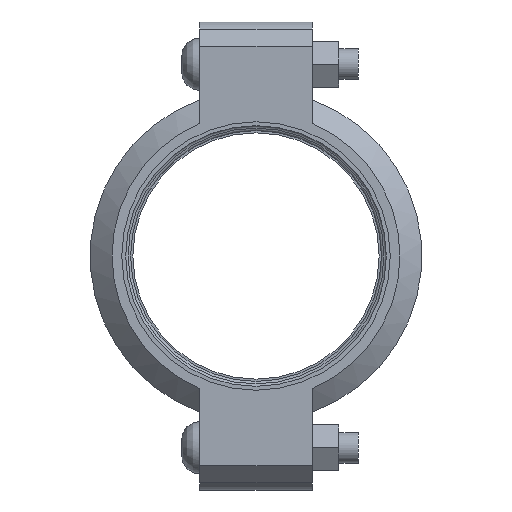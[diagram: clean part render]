
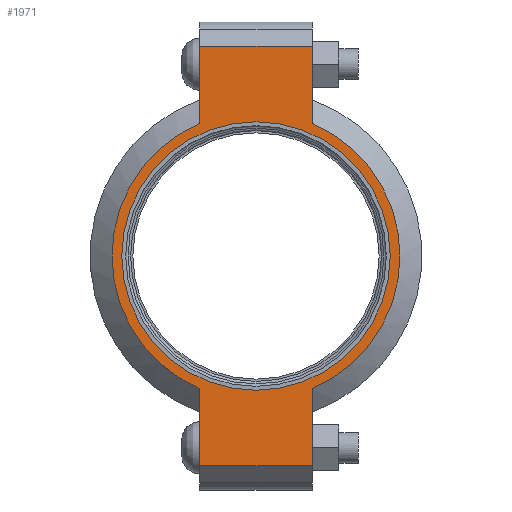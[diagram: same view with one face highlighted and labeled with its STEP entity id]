
A CAD part, left-side view. The second image highlights one B-rep face of the part: STEP entity #1971.
In plain terms, the highlighted planar face has unit normal (-1, 0, 0) as drawn and (0, 0, 1) by its records, which use the part's own axes.
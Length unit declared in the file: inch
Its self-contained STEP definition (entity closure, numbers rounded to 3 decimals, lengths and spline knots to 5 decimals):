
#160=LINE('',#3493,#257);
#168=LINE('',#3529,#265);
#175=LINE('',#3550,#272);
#184=LINE('',#3582,#281);
#185=LINE('',#3586,#282);
#186=LINE('',#3588,#283);
#257=VECTOR('',#2845,0.3937);
#265=VECTOR('',#2861,0.3937);
#272=VECTOR('',#2880,0.3937);
#281=VECTOR('',#2905,0.3937);
#282=VECTOR('',#2910,0.3937);
#283=VECTOR('',#2911,0.3937);
#339=FACE_BOUND('',#589,.T.);
#383=PLANE('',#2310);
#471=FACE_OUTER_BOUND('',#588,.T.);
#588=EDGE_LOOP('',(#1692,#1693,#1694,#1695,#1696,#1697,#1698,#1699));
#589=EDGE_LOOP('',(#1700));
#761=CIRCLE('',#2311,2.95);
#762=CIRCLE('',#2312,2.95);
#763=CIRCLE('',#2313,2.75);
#925=VERTEX_POINT('',#3490);
#926=VERTEX_POINT('',#3492);
#937=VERTEX_POINT('',#3524);
#938=VERTEX_POINT('',#3528);
#945=VERTEX_POINT('',#3547);
#946=VERTEX_POINT('',#3549);
#956=VERTEX_POINT('',#3585);
#957=VERTEX_POINT('',#3587);
#958=VERTEX_POINT('',#3590);
#1170=EDGE_CURVE('',#926,#925,#160,.T.);
#1184=EDGE_CURVE('',#938,#937,#168,.T.);
#1194=EDGE_CURVE('',#946,#945,#175,.T.);
#1209=EDGE_CURVE('',#938,#925,#184,.T.);
#1210=EDGE_CURVE('',#937,#946,#761,.T.);
#1211=EDGE_CURVE('',#956,#945,#185,.T.);
#1212=EDGE_CURVE('',#956,#957,#186,.T.);
#1213=EDGE_CURVE('',#957,#926,#762,.T.);
#1214=EDGE_CURVE('',#958,#958,#763,.T.);
#1692=ORIENTED_EDGE('',*,*,#1209,.F.);
#1693=ORIENTED_EDGE('',*,*,#1184,.T.);
#1694=ORIENTED_EDGE('',*,*,#1210,.T.);
#1695=ORIENTED_EDGE('',*,*,#1194,.T.);
#1696=ORIENTED_EDGE('',*,*,#1211,.F.);
#1697=ORIENTED_EDGE('',*,*,#1212,.T.);
#1698=ORIENTED_EDGE('',*,*,#1213,.T.);
#1699=ORIENTED_EDGE('',*,*,#1170,.T.);
#1700=ORIENTED_EDGE('',*,*,#1214,.T.);
#1971=ADVANCED_FACE('',(#471,#339),#383,.T.);
#2310=AXIS2_PLACEMENT_3D('',#3583,#2906,#2907);
#2311=AXIS2_PLACEMENT_3D('',#3584,#2908,#2909);
#2312=AXIS2_PLACEMENT_3D('',#3589,#2912,#2913);
#2313=AXIS2_PLACEMENT_3D('',#3591,#2914,#2915);
#2845=DIRECTION('',(1.,0.,0.));
#2861=DIRECTION('',(-1.,0.,0.));
#2880=DIRECTION('',(-1.,0.,0.));
#2905=DIRECTION('',(0.,-1.,0.));
#2906=DIRECTION('center_axis',(0.,0.,1.));
#2907=DIRECTION('ref_axis',(-1.,0.,0.));
#2908=DIRECTION('center_axis',(0.,0.,1.));
#2909=DIRECTION('ref_axis',(1.,0.,0.));
#2910=DIRECTION('',(0.,1.,0.));
#2911=DIRECTION('',(1.,0.,0.));
#2912=DIRECTION('center_axis',(0.,0.,1.));
#2913=DIRECTION('ref_axis',(1.,0.,0.));
#2914=DIRECTION('center_axis',(0.,0.,-1.));
#2915=DIRECTION('ref_axis',(1.,0.,0.));
#3490=CARTESIAN_POINT('',(4.295,-1.15,1.065));
#3492=CARTESIAN_POINT('',(2.71662,-1.15,1.065));
#3493=CARTESIAN_POINT('',(4.795,-1.15,1.065));
#3524=CARTESIAN_POINT('',(2.71662,1.15,1.065));
#3528=CARTESIAN_POINT('',(4.295,1.15,1.065));
#3529=CARTESIAN_POINT('',(-4.795,1.15,1.065));
#3547=CARTESIAN_POINT('',(-4.295,1.15,1.065));
#3549=CARTESIAN_POINT('',(-2.71662,1.15,1.065));
#3550=CARTESIAN_POINT('',(-4.795,1.15,1.065));
#3582=CARTESIAN_POINT('',(4.295,-0.575,1.065));
#3583=CARTESIAN_POINT('Origin',(0.,0.,
1.065));
#3584=CARTESIAN_POINT('Origin',(0.,0.,1.065));
#3585=CARTESIAN_POINT('',(-4.295,-1.15,1.065));
#3586=CARTESIAN_POINT('',(-4.295,0.575,1.065));
#3587=CARTESIAN_POINT('',(-2.71662,-1.15,1.065));
#3588=CARTESIAN_POINT('',(4.795,-1.15,1.065));
#3589=CARTESIAN_POINT('Origin',(0.,0.,1.065));
#3590=CARTESIAN_POINT('',(-2.75,0.,1.065));
#3591=CARTESIAN_POINT('Origin',(0.,0.,1.065));
